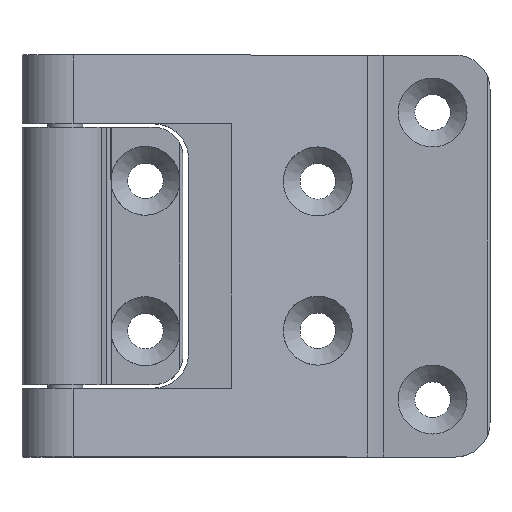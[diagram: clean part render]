
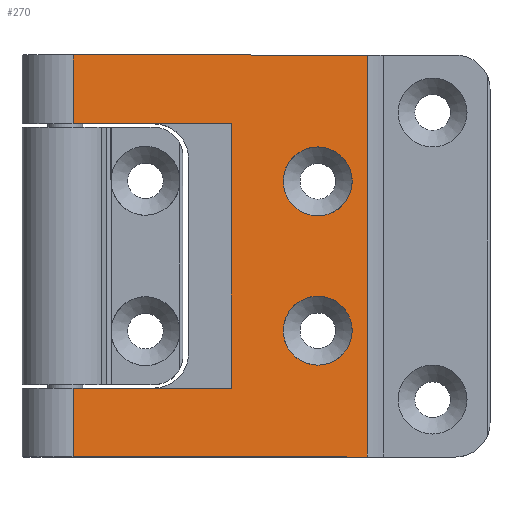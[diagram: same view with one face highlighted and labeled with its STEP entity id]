
A CAD part, top view. The second image highlights one B-rep face of the part: STEP entity #270.
In plain terms, the highlighted planar face has unit normal (0.184, 0, 0.983).
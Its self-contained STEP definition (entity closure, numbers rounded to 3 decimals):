
#267=ELLIPSE('',#1195,6.105,6.);
#268=ELLIPSE('',#1196,6.105,6.);
#270=ADVANCED_FACE('',(#356,#357,#358),#333,.F.);
#333=PLANE('',#1197);
#356=FACE_BOUND('',#438,.T.);
#357=FACE_BOUND('',#439,.T.);
#358=FACE_BOUND('',#440,.T.);
#438=EDGE_LOOP('',(#610));
#439=EDGE_LOOP('',(#611));
#440=EDGE_LOOP('',(#612,#613,#614,#615,#616,#617,#618,#619));
#610=ORIENTED_EDGE('',*,*,#960,.T.);
#611=ORIENTED_EDGE('',*,*,#961,.T.);
#612=ORIENTED_EDGE('',*,*,#962,.T.);
#613=ORIENTED_EDGE('',*,*,#963,.T.);
#614=ORIENTED_EDGE('',*,*,#964,.F.);
#615=ORIENTED_EDGE('',*,*,#957,.F.);
#616=ORIENTED_EDGE('',*,*,#965,.T.);
#617=ORIENTED_EDGE('',*,*,#966,.T.);
#618=ORIENTED_EDGE('',*,*,#967,.F.);
#619=ORIENTED_EDGE('',*,*,#968,.T.);
#861=VERTEX_POINT('',#1632);
#862=VERTEX_POINT('',#1634);
#864=VERTEX_POINT('',#1640);
#865=VERTEX_POINT('',#1642);
#866=VERTEX_POINT('',#1644);
#867=VERTEX_POINT('',#1645);
#868=VERTEX_POINT('',#1647);
#869=VERTEX_POINT('',#1650);
#870=VERTEX_POINT('',#1652);
#871=VERTEX_POINT('',#1654);
#957=EDGE_CURVE('',#861,#862,#1083,.T.);
#960=EDGE_CURVE('',#864,#864,#267,.T.);
#961=EDGE_CURVE('',#865,#865,#268,.T.);
#962=EDGE_CURVE('',#866,#867,#1084,.T.);
#963=EDGE_CURVE('',#867,#868,#1085,.T.);
#964=EDGE_CURVE('',#862,#868,#1086,.T.);
#965=EDGE_CURVE('',#861,#869,#1087,.T.);
#966=EDGE_CURVE('',#869,#870,#1088,.T.);
#967=EDGE_CURVE('',#871,#870,#1089,.T.);
#968=EDGE_CURVE('',#871,#866,#1090,.T.);
#1083=LINE('',#1633,#1138);
#1084=LINE('',#1643,#1139);
#1085=LINE('',#1646,#1140);
#1086=LINE('',#1648,#1141);
#1087=LINE('',#1649,#1142);
#1088=LINE('',#1651,#1143);
#1089=LINE('',#1653,#1144);
#1090=LINE('',#1655,#1145);
#1138=VECTOR('',#1323,1.);
#1139=VECTOR('',#1334,1.);
#1140=VECTOR('',#1335,1.);
#1141=VECTOR('',#1336,1.);
#1142=VECTOR('',#1337,1.);
#1143=VECTOR('',#1338,1.);
#1144=VECTOR('',#1339,1.);
#1145=VECTOR('',#1340,1.);
#1195=AXIS2_PLACEMENT_3D('',#1639,#1330,#1331);
#1196=AXIS2_PLACEMENT_3D('',#1641,#1332,#1333);
#1197=AXIS2_PLACEMENT_3D('',#1656,#1341,#1342);
#1323=DIRECTION('',(-0.983,0.,0.184));
#1330=DIRECTION('',(-0.184,0.,-0.983));
#1331=DIRECTION('',(0.983,0.,-0.184));
#1332=DIRECTION('',(-0.184,0.,-0.983));
#1333=DIRECTION('',(0.983,0.,-0.184));
#1334=DIRECTION('',(0.,-1.,0.));
#1335=DIRECTION('',(-0.983,0.,0.184));
#1336=DIRECTION('',(0.,1.,0.));
#1337=DIRECTION('',(0.,1.,0.));
#1338=DIRECTION('',(-0.983,0.,0.184));
#1339=DIRECTION('',(0.,1.,0.));
#1340=DIRECTION('',(0.983,0.,-0.184));
#1341=DIRECTION('',(-0.184,0.,-0.983));
#1342=DIRECTION('',(0.983,0.,-0.184));
#1632=CARTESIAN_POINT('',(176.925,467.65,5.257));
#1633=CARTESIAN_POINT('',(176.925,467.65,5.257));
#1634=CARTESIAN_POINT('',(125.678,467.65,14.871));
#1639=CARTESIAN_POINT('',(168.296,489.65,6.876));
#1640=CARTESIAN_POINT('',(174.296,489.65,5.75));
#1641=CARTESIAN_POINT('',(168.296,515.65,6.876));
#1642=CARTESIAN_POINT('',(174.296,515.65,5.75));
#1643=CARTESIAN_POINT('',(153.243,467.65,9.7));
#1644=CARTESIAN_POINT('',(153.243,525.65,9.7));
#1645=CARTESIAN_POINT('',(153.243,479.65,9.7));
#1646=CARTESIAN_POINT('',(176.925,479.65,5.257));
#1647=CARTESIAN_POINT('',(125.678,479.65,14.871));
#1648=CARTESIAN_POINT('',(125.678,467.65,14.871));
#1649=CARTESIAN_POINT('',(176.925,467.65,5.257));
#1650=CARTESIAN_POINT('',(176.925,537.65,5.257));
#1651=CARTESIAN_POINT('',(176.925,537.65,5.257));
#1652=CARTESIAN_POINT('',(125.678,537.65,14.871));
#1653=CARTESIAN_POINT('',(125.678,467.65,14.871));
#1654=CARTESIAN_POINT('',(125.678,525.65,14.871));
#1655=CARTESIAN_POINT('',(176.925,525.65,5.257));
#1656=CARTESIAN_POINT('',(176.925,467.65,5.257));
